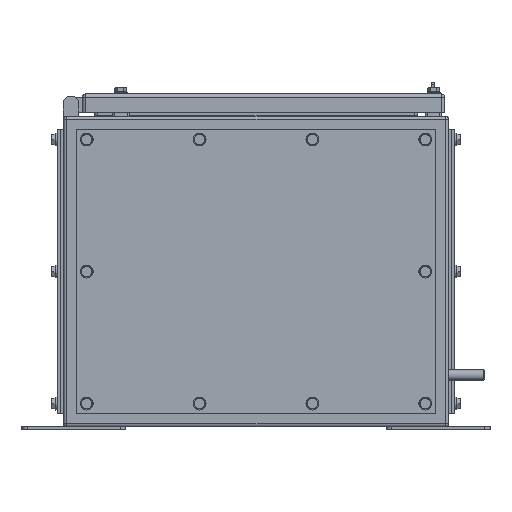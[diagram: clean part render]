
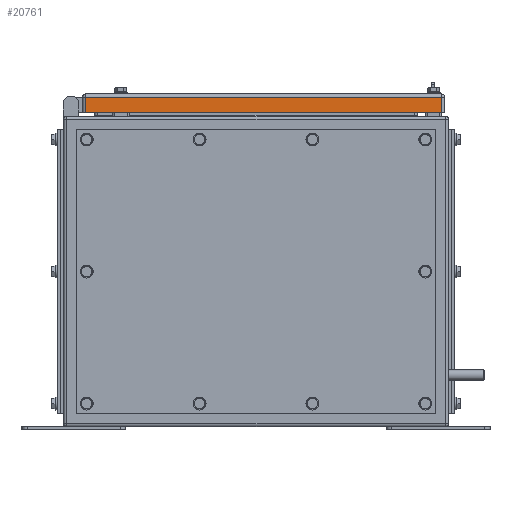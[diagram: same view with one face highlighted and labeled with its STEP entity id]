
A CAD part, front view. The second image highlights one B-rep face of the part: STEP entity #20761.
In plain terms, the highlighted planar face has unit normal (0, -1, 0) as drawn and (-1, 0, 0) by its records, which use the part's own axes.
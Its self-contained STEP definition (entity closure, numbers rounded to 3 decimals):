
#225 = ORIENTED_EDGE ( 'NONE', *, *, #26849, .T. ) ;
#1135 = CARTESIAN_POINT ( 'NONE',  ( -252., -361., 0. ) ) ;
#1329 = CARTESIAN_POINT ( 'NONE',  ( -252., -358., 0. ) ) ;
#2730 = VECTOR ( 'NONE', #20221, 1000. ) ;
#4400 = FACE_OUTER_BOUND ( 'NONE', #22148, .T. ) ;
#4774 = CARTESIAN_POINT ( 'NONE',  ( -252., -361., 15. ) ) ;
#6308 = LINE ( 'NONE', #17252, #24781 ) ;
#7632 = CARTESIAN_POINT ( 'NONE',  ( -252., -14., 15. ) ) ;
#8303 = DIRECTION ( 'NONE',  ( 0., 0., -1. ) ) ;
#8377 = DIRECTION ( 'NONE',  ( 0., 0., -1. ) ) ;
#8497 = VERTEX_POINT ( 'NONE', #1329 ) ;
#10091 = ORIENTED_EDGE ( 'NONE', *, *, #21960, .T. ) ;
#10533 = DIRECTION ( 'NONE',  ( 1., 0., 0. ) ) ;
#10552 = ORIENTED_EDGE ( 'NONE', *, *, #18230, .T. ) ;
#10660 = PLANE ( 'NONE',  #21392 ) ;
#10996 = ORIENTED_EDGE ( 'NONE', *, *, #11093, .T. ) ;
#11093 = EDGE_CURVE ( 'NONE', #17365, #26835, #6308, .T. ) ;
#12658 = VECTOR ( 'NONE', #21530, 1000. ) ;
#13758 = LINE ( 'NONE', #4774, #2730 ) ;
#14511 = CARTESIAN_POINT ( 'NONE',  ( -252., -14., 0. ) ) ;
#17252 = CARTESIAN_POINT ( 'NONE',  ( -252., -14., 18. ) ) ;
#17365 = VERTEX_POINT ( 'NONE', #7632 ) ;
#18230 = EDGE_CURVE ( 'NONE', #21362, #17365, #13758, .T. ) ;
#20221 = DIRECTION ( 'NONE',  ( 0., 1., 0. ) ) ;
#20761 = ADVANCED_FACE ( 'NONE', ( #4400 ), #10660, .F. ) ;
#21117 = DIRECTION ( 'NONE',  ( 0., -1., 0. ) ) ;
#21127 = CARTESIAN_POINT ( 'NONE',  ( -252., -361., 18. ) ) ;
#21362 = VERTEX_POINT ( 'NONE', #23798 ) ;
#21392 = AXIS2_PLACEMENT_3D ( 'NONE', #21127, #10533, #8377 ) ;
#21530 = DIRECTION ( 'NONE',  ( 0., 0., 1. ) ) ;
#21960 = EDGE_CURVE ( 'NONE', #8497, #21362, #25806, .T. ) ;
#22148 = EDGE_LOOP ( 'NONE', ( #225, #10091, #10552, #10996 ) ) ;
#23798 = CARTESIAN_POINT ( 'NONE',  ( -252., -358., 15. ) ) ;
#24781 = VECTOR ( 'NONE', #8303, 1000. ) ;
#24877 = VECTOR ( 'NONE', #21117, 1000. ) ;
#25806 = LINE ( 'NONE', #26090, #12658 ) ;
#26090 = CARTESIAN_POINT ( 'NONE',  ( -252., -358., 18. ) ) ;
#26835 = VERTEX_POINT ( 'NONE', #14511 ) ;
#26849 = EDGE_CURVE ( 'NONE', #26835, #8497, #27256, .T. ) ;
#27256 = LINE ( 'NONE', #1135, #24877 ) ;
